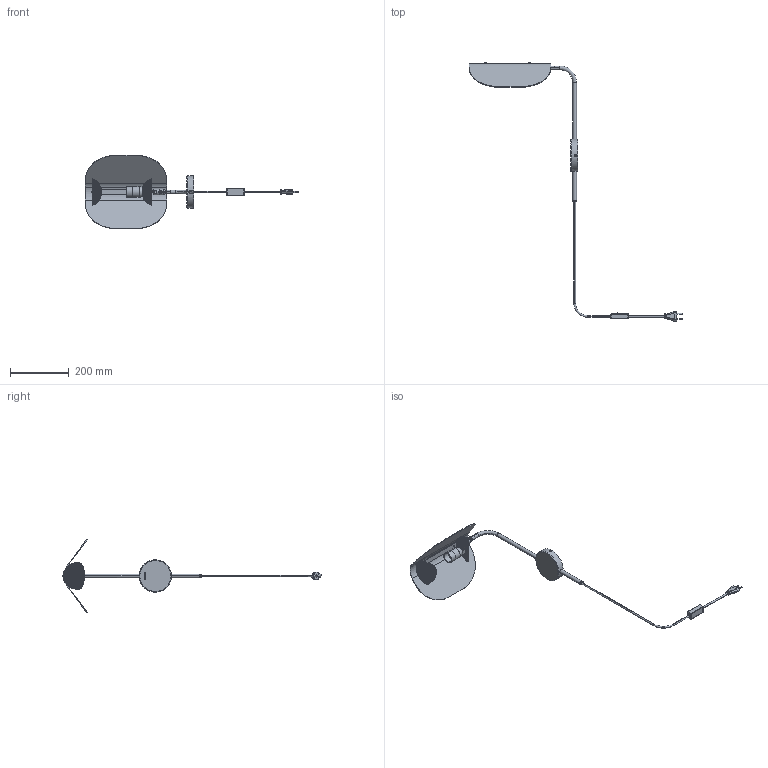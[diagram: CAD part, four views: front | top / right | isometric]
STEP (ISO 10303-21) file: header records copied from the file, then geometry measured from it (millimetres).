
FILE_DESCRIPTION (( 'STEP AP214' ), '1' );
FILE_NAME ('Wing Wall with cord.STEP', '2026-01-16T12:16:10', ( '' ), ( '' ), 'SwSTEP 2.0', 'SolidWorks 2024', '' );
FILE_SCHEMA (( 'AUTOMOTIVE_DESIGN' ));
Length unit declared in the file: millimetre
Products named in the file (1): Wing Wall with cord
Bounding box: 726.36 x 880.65 x 250 mm (x, y, z)
Surface area: 301526.6 mm2 (no closed solid volume)
Topology: 0 solids, 31 shells, 5621 faces, 16509 edges, 10741 vertices
Faces by surface type: cylinder 4905, plane 271, bspline 186, cone 140, torus 61, sphere 58
Entity records: 240509 total; most frequent: CARTESIAN_POINT 83828, ORIENTED_EDGE 32794, DIRECTION 31153, EDGE_CURVE 16408, AXIS2_PLACEMENT_3D 13402, VERTEX_POINT 10740, EDGE_LOOP 9930, CIRCLE 7966
